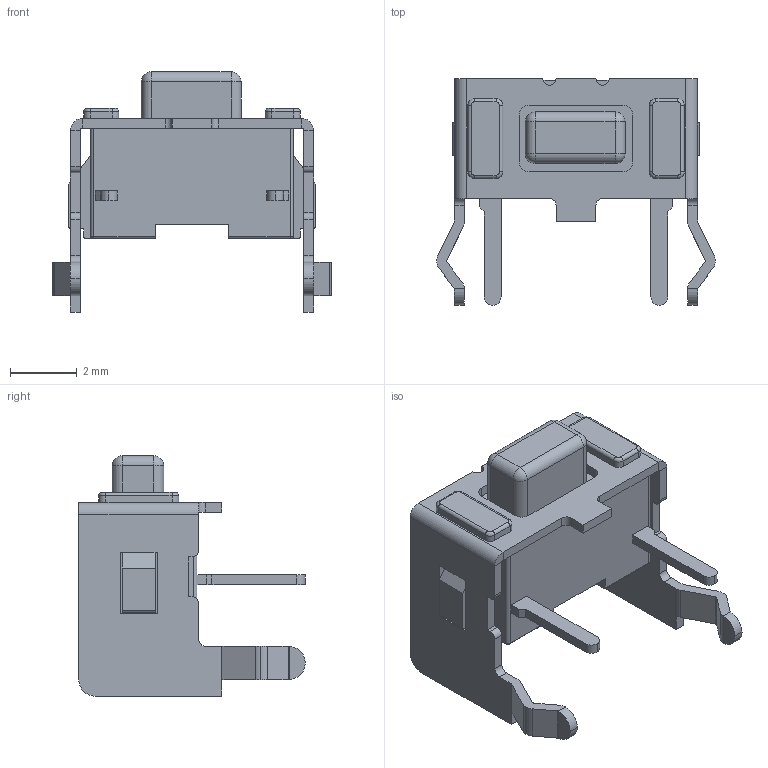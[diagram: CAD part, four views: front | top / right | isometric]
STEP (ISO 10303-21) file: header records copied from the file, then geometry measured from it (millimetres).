
FILE_DESCRIPTION (( 'STEP AP214' ), '1' );
FILE_NAME ('SKHLLC.STEP', '2015-03-13T04:14:27', ( 'user' ), ( 'Hewlett-Packard Company' ), 'SwSTEP 2.0', 'SolidWorks 2014', '' );
FILE_SCHEMA (( 'AUTOMOTIVE_DESIGN' ));
Length unit declared in the file: millimetre
Products named in the file (2): SKHL-L^SKHLLC; SKHLLC
Assembly tree (1 placements, depth 2):
  SKHLLC
    SKHL-L^SKHLLC
Bounding box: 8.38 x 6.8 x 7.22 mm (x, y, z)
Volume: 97.9 mm3; surface area: 265.1 mm2
Topology: 3 solids, 3 shells, 248 faces, 652 edges, 414 vertices
Faces by surface type: plane 148, cylinder 86, torus 10, sphere 4
Entity records: 9813 total; most frequent: CARTESIAN_POINT 1338, DIRECTION 1332, ORIENTED_EDGE 1296, EDGE_CURVE 648, VECTOR 452, LINE 452, AXIS2_PLACEMENT_3D 440, VERTEX_POINT 414
